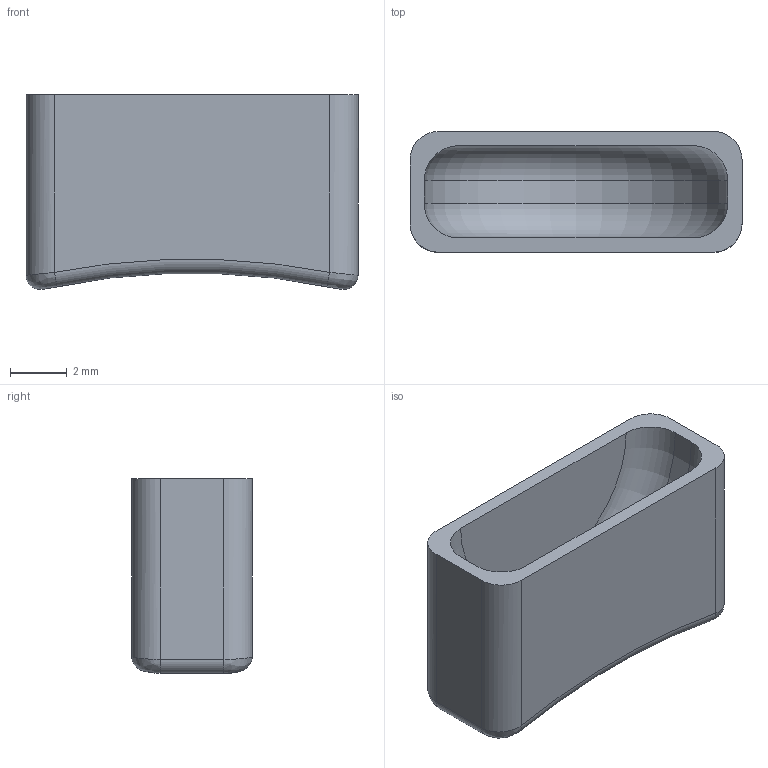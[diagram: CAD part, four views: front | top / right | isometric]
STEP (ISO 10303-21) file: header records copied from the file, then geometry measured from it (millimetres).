
FILE_DESCRIPTION(/* description */ ('STEP AP242 Edition 2','CAx-IF Rec.Pracs.---Representation and Presentation of Product Manufacturing Information (PMI)---4.0---2014-10-13','CAx-IF Rec.Pracs.---3D Tessellated Geometry---0.4---2014-09-14','2;1','CAx-IF Rec.Pracs.---User Defined Attributes---1.5---2016-08-15'),/* implementation_level */ '2;1');
FILE_NAME(/* name */ 'HIRO posing assembly - Part 1 (24)',/* time_stamp */ '2026-11-04T05:15:21Z',/* author */ (''),/* organization */ (''),/* preprocessor_version */ 'ST-DEVELOPER v20',/* originating_system */ 'ONSHAPE BY PTC INC, 1.223',/* authorisation */ ' ');
FILE_SCHEMA (('AP242_MANAGED_MODEL_BASED_3D_ENGINEERING_MIM_LF { 1 0 10303 442 3 1 4 }'));
Length unit declared in the file: metre
Products named in the file (1): Part 1
Bounding box: 11.7 x 4.25 x 6.87 mm (x, y, z)
Volume: 181.1 mm3; surface area: 383.3 mm2
Topology: 1 solids, 1 shells, 23 faces, 52 edges, 32 vertices
Faces by surface type: cylinder 8, plane 7, torus 4, bspline 4
Entity records: 720 total; most frequent: CARTESIAN_POINT 192, DIRECTION 108, ORIENTED_EDGE 104, EDGE_CURVE 52, AXIS2_PLACEMENT_3D 44, VERTEX_POINT 32, CIRCLE 24, EDGE_LOOP 24
